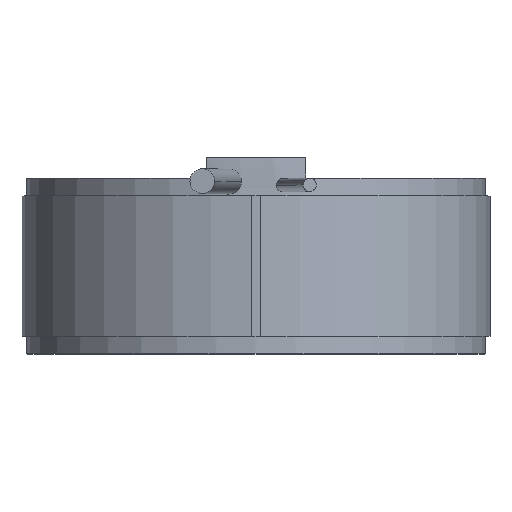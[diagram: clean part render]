
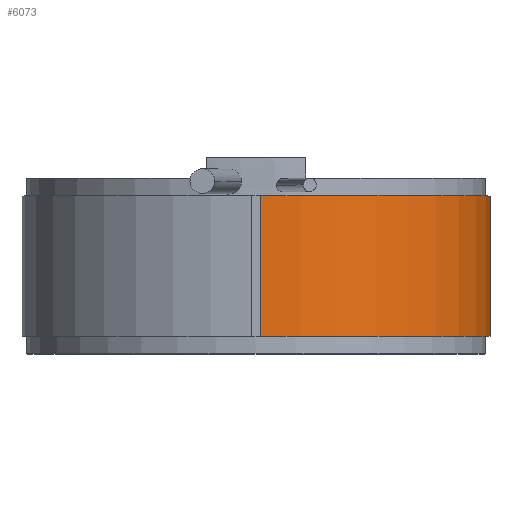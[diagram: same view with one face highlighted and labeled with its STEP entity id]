
A CAD part, top view. The second image highlights one B-rep face of the part: STEP entity #6073.
In plain terms, the highlighted cylindrical face has radius 80 mm (diameter 160 mm), a partial arc.
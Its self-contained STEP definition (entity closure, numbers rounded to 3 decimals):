
#16 = DIRECTION ( 'NONE',  ( 0., 0., 1. ) ) ;
#722 = EDGE_CURVE ( 'NONE', #5108, #966, #4030, .T. ) ;
#758 = AXIS2_PLACEMENT_3D ( 'NONE', #4281, #5227, #1441 ) ;
#777 = EDGE_LOOP ( 'NONE', ( #3918, #3347, #899, #1430 ) ) ;
#814 = LINE ( 'NONE', #2241, #962 ) ;
#899 = ORIENTED_EDGE ( 'NONE', *, *, #4102, .T. ) ;
#928 = CARTESIAN_POINT ( 'NONE',  ( 54.618, 35.108, 144.125 ) ) ;
#962 = VECTOR ( 'NONE', #3161, 1000. ) ;
#966 = VERTEX_POINT ( 'NONE', #1268 ) ;
#1031 = DIRECTION ( 'NONE',  ( 0., 0., -1. ) ) ;
#1066 = CARTESIAN_POINT ( 'NONE',  ( -13.889, 153.766, -135.875 ) ) ;
#1140 = CARTESIAN_POINT ( 'NONE',  ( 54.618, 35.108, 96.125 ) ) ;
#1268 = CARTESIAN_POINT ( 'NONE',  ( -13.889, 153.766, 96.125 ) ) ;
#1430 = ORIENTED_EDGE ( 'NONE', *, *, #5972, .F. ) ;
#1441 = DIRECTION ( 'NONE',  ( 1., 0., 0. ) ) ;
#1719 = DIRECTION ( 'NONE',  ( 1., 0., 0. ) ) ;
#1993 = AXIS2_PLACEMENT_3D ( 'NONE', #4729, #4053, #1719 ) ;
#2241 = CARTESIAN_POINT ( 'NONE',  ( 54.618, 35.108, -135.865 ) ) ;
#3161 = DIRECTION ( 'NONE',  ( 0., 0., 1. ) ) ;
#3347 = ORIENTED_EDGE ( 'NONE', *, *, #722, .T. ) ;
#3413 = LINE ( 'NONE', #1066, #5741 ) ;
#3899 = CYLINDRICAL_SURFACE ( 'NONE', #5777, 80. ) ;
#3918 = ORIENTED_EDGE ( 'NONE', *, *, #5811, .F. ) ;
#3928 = CARTESIAN_POINT ( 'NONE',  ( -15.414, 73.78, 64.125 ) ) ;
#4030 = CIRCLE ( 'NONE', #1993, 80. ) ;
#4053 = DIRECTION ( 'NONE',  ( 0., 0., 1. ) ) ;
#4102 = EDGE_CURVE ( 'NONE', #966, #4176, #3413, .T. ) ;
#4176 = VERTEX_POINT ( 'NONE', #5692 ) ;
#4281 = CARTESIAN_POINT ( 'NONE',  ( -15.414, 73.78, 144.125 ) ) ;
#4398 = DIRECTION ( 'NONE',  ( -1., 0., 0. ) ) ;
#4729 = CARTESIAN_POINT ( 'NONE',  ( -15.414, 73.78, 96.125 ) ) ;
#4870 = VERTEX_POINT ( 'NONE', #928 ) ;
#4899 = CIRCLE ( 'NONE', #758, 80. ) ;
#5108 = VERTEX_POINT ( 'NONE', #1140 ) ;
#5227 = DIRECTION ( 'NONE',  ( 0., 0., 1. ) ) ;
#5351 = FACE_OUTER_BOUND ( 'NONE', #777, .T. ) ;
#5692 = CARTESIAN_POINT ( 'NONE',  ( -13.889, 153.766, 144.125 ) ) ;
#5741 = VECTOR ( 'NONE', #16, 1000. ) ;
#5777 = AXIS2_PLACEMENT_3D ( 'NONE', #3928, #1031, #4398 ) ;
#5811 = EDGE_CURVE ( 'NONE', #5108, #4870, #814, .T. ) ;
#5972 = EDGE_CURVE ( 'NONE', #4870, #4176, #4899, .T. ) ;
#6073 = ADVANCED_FACE ( 'NONE', ( #5351 ), #3899, .T. ) ;
